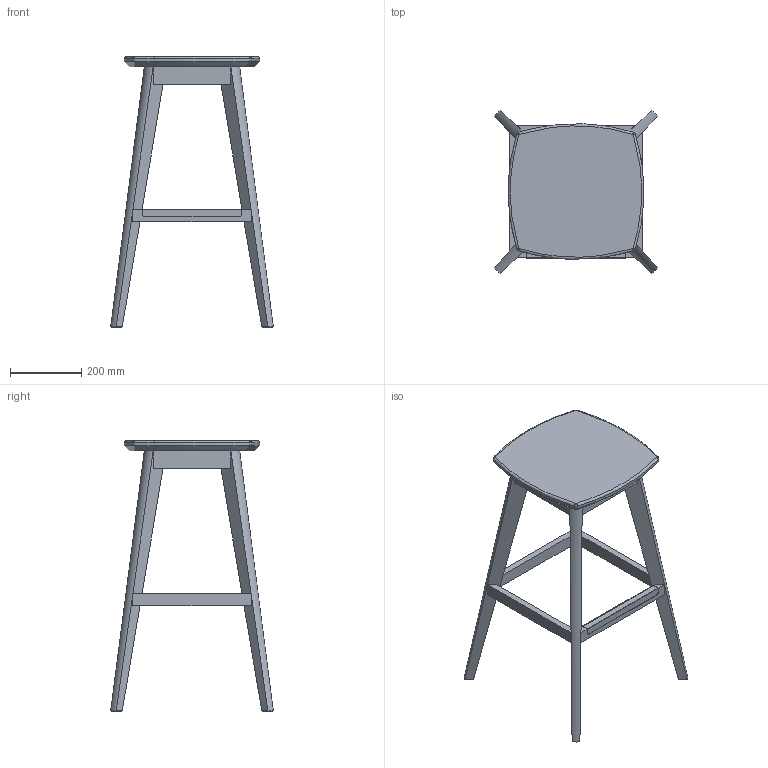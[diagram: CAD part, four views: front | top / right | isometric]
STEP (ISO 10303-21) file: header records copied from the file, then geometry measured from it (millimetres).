
FILE_DESCRIPTION(/* description */ (''),/* implementation_level */ '2;1');
FILE_NAME(/* name */ 'WI8F15~1',/* time_stamp */ '2017-09-28T22:51:42+02:00',/* author */ (''),/* organization */ (''),/* preprocessor_version */ 'ST-DEVELOPER v15',/* originating_system */ '',/* authorisation */ '');
FILE_SCHEMA (('CONFIG_CONTROL_DESIGN'));
Length unit declared in the file: millimetre
Products named in the file (1): Document
Bounding box: 455.49 x 455.49 x 758 mm (x, y, z)
Volume: 8722288.5 mm3; surface area: 990677.5 mm2
Topology: 14 solids, 14 shells, 128 faces, 271 edges, 174 vertices
Faces by surface type: plane 80, bspline 48
Entity records: 3284 total; most frequent: CARTESIAN_POINT 1405, ORIENTED_EDGE 536, EDGE_CURVE 268, VERTEX_POINT 168, B_SPLINE_CURVE_WITH_KNOTS 159, ADVANCED_FACE 128, FACE_OUTER_BOUND 128, EDGE_LOOP 128
